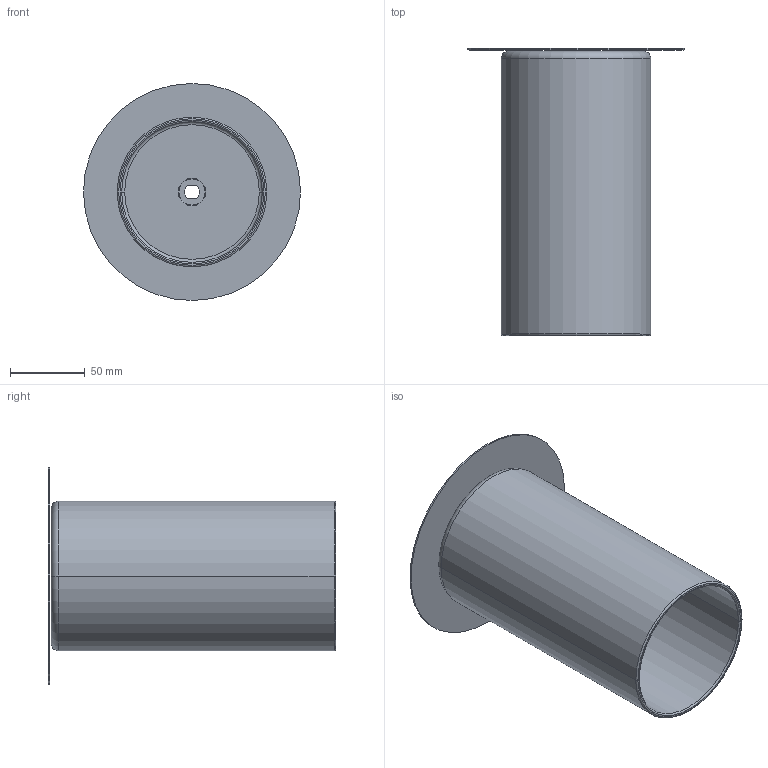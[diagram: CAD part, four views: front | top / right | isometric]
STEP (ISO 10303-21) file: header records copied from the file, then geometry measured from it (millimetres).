
FILE_DESCRIPTION (( 'STEP AP203' ), '1' );
FILE_NAME ('PLSPIX01IXXXXXX-PER 3D.STEP', '2025-06-25T14:04:50', ( '' ), ( '' ), 'SwSTEP 2.0', 'SolidWorks 2024', '' );
FILE_SCHEMA (( 'CONFIG_CONTROL_DESIGN' ));
Length unit declared in the file: millimetre
Products named in the file (4): PLSPIX01IXXXXXX-PER 3D; WSCM2C0178-0100-00; VSPILLRAYM190CS; MPLSPIX01IXXXXXX
Assembly tree (3 placements, depth 3):
  PLSPIX01IXXXXXX-PER 3D
    MPLSPIX01IXXXXXX
      WSCM2C0178-0100-00
    VSPILLRAYM190CS
Bounding box: 144.99 x 191.8 x 144.99 mm (x, y, z)
Volume: 208702.4 mm3; surface area: 162445.3 mm2
Topology: 2 solids, 2 shells, 29 faces, 60 edges, 36 vertices
Faces by surface type: torus 12, cylinder 10, plane 7
Entity records: 1208 total; most frequent: DIRECTION 176, CARTESIAN_POINT 132, ORIENTED_EDGE 120, AXIS2_PLACEMENT_3D 80, EDGE_CURVE 60, CIRCLE 44, VERTEX_POINT 36, PERSON_AND_ORGANIZATION 35
